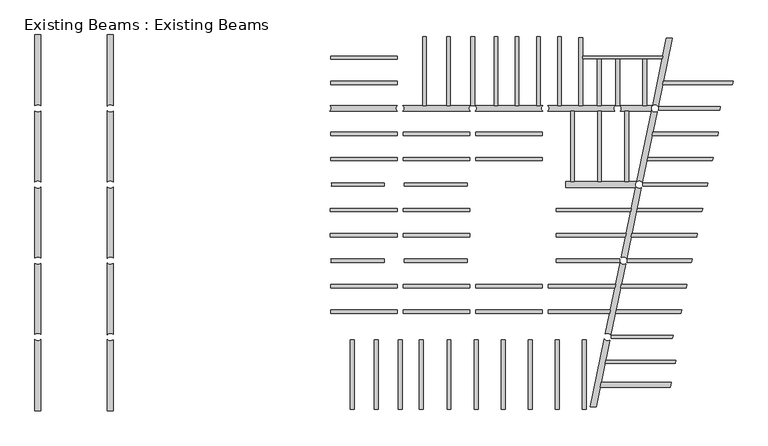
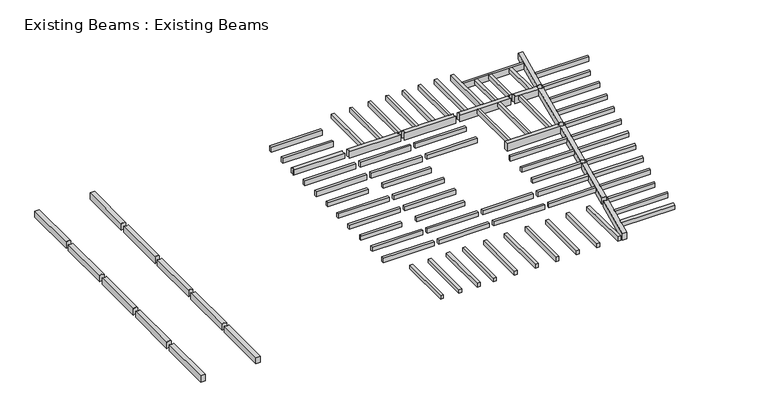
"""IFC4 building model written with IfcOpenShell, lengths in millimetres: beam geometry, Existing Beams : Existing Beams."""

from ifc_helpers import new_model, si_unit, point, frame, frame_2d, origin, place, context, project, spatial, polyline, circle_curve, trimmed, segment, composite_curve, outline, extrude, source, transform, mapped, element, save


def existing_beams_existing_beams_62673a28(model_context):
    return source(origin(), model_context, "Body", "SweptSolid", [
        extrude(outline(composite_curve([segment(polyline([(-31372.0509089, 117135.7591334), (-31372.0509089, 111526.8203862)]), True, "CONTINUOUS"), segment(trimmed(circle_curve(frame_2d((-31600.6509089, 111325.2141363)), 304.8), [point((-31372.0509089, 111526.8203862))], [point((-31829.2509089, 111526.8203862))], True, "CARTESIAN"), True, "CONTINUOUS"), segment(polyline([(-31829.2509089, 111526.8203862), (-31829.2509089, 117135.7591334), (-31372.0509089, 117135.7591334)]), True, "CONTINUOUS")], self_intersect=False)), frame((0.0, 0.0, 2984.5), z_axis=(0.0, 0.0, 1.0), x_axis=(1.0, 0.0, 0.0)), (0.0, 0.0, 1.0), 673.1),
        extrude(outline(composite_curve([segment(trimmed(circle_curve(frame_2d((-31600.6509089, 93262.0914396)), 304.8), [point((-31829.2509089, 93060.4851897))], [point((-31372.0509089, 93060.4851897))], True, "CARTESIAN"), True, "CONTINUOUS"), segment(polyline([(-31372.0509089, 93060.4851897), (-31372.0509089, 87424.7590237), (-31829.2509089, 87424.7590237), (-31829.2509089, 93060.4851897)]), True, "CONTINUOUS")], self_intersect=False)), frame((0.0, 0.0, 2984.5), z_axis=(0.0, 0.0, 1.0), x_axis=(1.0, 0.0, 0.0)), (0.0, 0.0, 1.0), 673.1),
        extrude(outline(composite_curve([segment(polyline([(-31829.2509089, 105504.922696), (-31829.2509089, 111123.6078864)]), True, "CONTINUOUS"), segment(trimmed(circle_curve(frame_2d((-31600.6509089, 111325.2141363)), 304.8), [point((-31829.2509089, 111123.6078864))], [point((-31372.0509089, 111123.6078864))], True, "CARTESIAN"), True, "CONTINUOUS"), segment(polyline([(-31372.0509089, 111123.6078864), (-31372.0509089, 105504.922696)]), True, "CONTINUOUS"), segment(trimmed(circle_curve(frame_2d((-31600.6509089, 105303.3164461)), 304.8), [point((-31372.0509089, 105504.922696))], [point((-31829.2509089, 105504.922696))], True, "CARTESIAN"), True, "CONTINUOUS")], self_intersect=False)), frame((0.0, 0.0, 2984.5), z_axis=(0.0, 0.0, 1.0), x_axis=(1.0, 0.0, 0.0)), (0.0, 0.0, 1.0), 673.1),
        extrude(outline(composite_curve([segment(polyline([(-31829.2509089, 99493.8653833), (-31829.2509089, 105101.7101962)]), True, "CONTINUOUS"), segment(trimmed(circle_curve(frame_2d((-31600.6509089, 105303.3164461)), 304.8), [point((-31829.2509089, 105101.7101962))], [point((-31372.0509089, 105101.7101962))], True, "CARTESIAN"), True, "CONTINUOUS"), segment(polyline([(-31372.0509089, 105101.7101962), (-31372.0509089, 99493.8653833)]), True, "CONTINUOUS"), segment(trimmed(circle_curve(frame_2d((-31600.6509089, 99292.2591334)), 304.8), [point((-31372.0509089, 99493.8653833))], [point((-31829.2509089, 99493.8653833))], True, "CARTESIAN"), True, "CONTINUOUS")], self_intersect=False)), frame((0.0, 0.0, 2984.5), z_axis=(0.0, 0.0, 1.0), x_axis=(1.0, 0.0, 0.0)), (0.0, 0.0, 1.0), 673.1),
        extrude(outline(composite_curve([segment(polyline([(-31829.2509089, 93463.6976895), (-31829.2509089, 99090.6528835)]), True, "CONTINUOUS"), segment(trimmed(circle_curve(frame_2d((-31600.6509089, 99292.2591334)), 304.8), [point((-31829.2509089, 99090.6528835))], [point((-31372.0509089, 99090.6528835))], True, "CARTESIAN"), True, "CONTINUOUS"), segment(polyline([(-31372.0509089, 99090.6528835), (-31372.0509089, 93463.6976895)]), True, "CONTINUOUS"), segment(trimmed(circle_curve(frame_2d((-31600.6509089, 93262.0914396)), 304.8), [point((-31372.0509089, 93463.6976895))], [point((-31829.2509089, 93463.6976895))], True, "CARTESIAN"), True, "CONTINUOUS")], self_intersect=False)), frame((0.0, 0.0, 2984.5), z_axis=(0.0, 0.0, 1.0), x_axis=(1.0, 0.0, 0.0)), (0.0, 0.0, 1.0), 673.1),
        extrude(outline(composite_curve([segment(polyline([(-25657.0509089, 117135.7591334), (-25657.0509089, 111537.1913355)]), True, "CONTINUOUS"), segment(trimmed(circle_curve(frame_2d((-25876.0685042, 111325.2141363)), 304.8), [point((-25657.0509089, 111537.1913355))], [point((-26114.2509089, 111515.4039943))], True, "CARTESIAN"), True, "CONTINUOUS"), segment(polyline([(-26114.2509089, 111515.4039943), (-26114.2509089, 117135.7591334), (-25657.0509089, 117135.7591334)]), True, "CONTINUOUS")], self_intersect=False)), frame((0.0, 0.0, 2984.5), z_axis=(0.0, 0.0, 1.0), x_axis=(1.0, 0.0, 0.0)), (0.0, 0.0, 1.0), 673.1),
        extrude(outline(composite_curve([segment(trimmed(circle_curve(frame_2d((-25876.0685042, 93257.4589024)), 304.8), [point((-26114.2509089, 93067.2690445))], [point((-25657.0509089, 93045.4817033))], True, "CARTESIAN"), True, "CONTINUOUS"), segment(polyline([(-25657.0509089, 93045.4817033), (-25657.0509089, 87424.7590237), (-26114.2509089, 87424.7590237), (-26114.2509089, 93067.2690445)]), True, "CONTINUOUS")], self_intersect=False)), frame((0.0, 0.0, 2984.5), z_axis=(0.0, 0.0, 1.0), x_axis=(1.0, 0.0, 0.0)), (0.0, 0.0, 1.0), 673.1),
        extrude(outline(composite_curve([segment(polyline([(-26114.2509089, 105493.506304), (-26114.2509089, 111135.0242784)]), True, "CONTINUOUS"), segment(trimmed(circle_curve(frame_2d((-25876.0685042, 111325.2141363)), 304.8), [point((-26114.2509089, 111135.0242784))], [point((-25657.0509089, 111113.2369372))], True, "CARTESIAN"), True, "CONTINUOUS"), segment(polyline([(-25657.0509089, 111113.2369372), (-25657.0509089, 105515.2936453)]), True, "CONTINUOUS"), segment(trimmed(circle_curve(frame_2d((-25876.0685042, 105303.3164461)), 304.8), [point((-25657.0509089, 105515.2936453))], [point((-26114.2509089, 105493.506304))], True, "CARTESIAN"), True, "CONTINUOUS")], self_intersect=False)), frame((0.0, 0.0, 2984.5), z_axis=(0.0, 0.0, 1.0), x_axis=(1.0, 0.0, 0.0)), (0.0, 0.0, 1.0), 673.1),
        extrude(outline(composite_curve([segment(polyline([(-26114.2509089, 99482.4489914), (-26114.2509089, 105113.1265881)]), True, "CONTINUOUS"), segment(trimmed(circle_curve(frame_2d((-25876.0685042, 105303.3164461)), 304.8), [point((-26114.2509089, 105113.1265881))], [point((-25657.0509089, 105091.3392469))], True, "CARTESIAN"), True, "CONTINUOUS"), segment(polyline([(-25657.0509089, 105091.3392469), (-25657.0509089, 99504.2363326)]), True, "CONTINUOUS"), segment(trimmed(circle_curve(frame_2d((-25876.0685042, 99292.2591334)), 304.8), [point((-25657.0509089, 99504.2363326))], [point((-26114.2509089, 99482.4489914))], True, "CARTESIAN"), True, "CONTINUOUS")], self_intersect=False)), frame((0.0, 0.0, 2984.5), z_axis=(0.0, 0.0, 1.0), x_axis=(1.0, 0.0, 0.0)), (0.0, 0.0, 1.0), 673.1),
        extrude(outline(composite_curve([segment(polyline([(-26114.2509089, 93447.6487604), (-26114.2509089, 99102.0692755)]), True, "CONTINUOUS"), segment(trimmed(circle_curve(frame_2d((-25876.0685042, 99292.2591334)), 304.8), [point((-26114.2509089, 99102.0692755))], [point((-25657.0509089, 99080.2819343))], True, "CARTESIAN"), True, "CONTINUOUS"), segment(polyline([(-25657.0509089, 99080.2819343), (-25657.0509089, 93469.4361016)]), True, "CONTINUOUS"), segment(trimmed(circle_curve(frame_2d((-25876.0685042, 93257.4589024)), 304.8), [point((-25657.0509089, 93469.4361016))], [point((-26114.2509089, 93447.6487604))], True, "CARTESIAN"), True, "CONTINUOUS")], self_intersect=False)), frame((0.0, 0.0, 2984.5), z_axis=(0.0, 0.0, 1.0), x_axis=(1.0, 0.0, 0.0)), (0.0, 0.0, 1.0), 673.1),
        extrude(outline(polyline([(12790.605652, 89286.9914396), (12869.2773292, 89667.9914396), (18380.5452977, 89667.9914396), (18301.8652862, 89286.9914396), (12790.605652, 89286.9914396)])), frame((0.0, 0.0, 3200.4), z_axis=(0.0, 0.0, 1.0), x_axis=(1.0, 0.0, 0.0)), (0.0, 0.0, 1.0), 457.2),
        extrude(outline(polyline([(17729.3332816, 113204.8141363), (17781.7810664, 113458.8141363), (23280.1609264, 113458.8141363), (23227.7131416, 113204.8141363), (17729.3332816, 113204.8141363)])), frame((0.0, 0.0, 3200.4), z_axis=(0.0, 0.0, 1.0), x_axis=(1.0, 0.0, 0.0)), (0.0, 0.0, 1.0), 457.2),
        extrude(outline(polyline([(16900.7191948, 109191.9091334), (16953.1669796, 109445.9091334), (22114.3809434, 109445.9091334), (22061.9331586, 109191.9091334), (16900.7191948, 109191.9091334)])), frame((0.0, 0.0, 3200.4), z_axis=(0.0, 0.0, 1.0), x_axis=(1.0, 0.0, 0.0)), (0.0, 0.0, 1.0), 457.2),
        extrude(outline(polyline([(16486.3816948, 107185.3091334), (16538.8294796, 107439.3091334), (21700.0434434, 107439.3091334), (21647.5956586, 107185.3091334), (16486.3816948, 107185.3091334)])), frame((0.0, 0.0, 3200.4), z_axis=(0.0, 0.0, 1.0), x_axis=(1.0, 0.0, 0.0)), (0.0, 0.0, 1.0), 457.2),
        extrude(outline(polyline([(15659.0178894, 103178.4591334), (15711.4656742, 103432.4591334), (20872.6796381, 103432.4591334), (20820.2318532, 103178.4591334), (15659.0178894, 103178.4591334)])), frame((0.0, 0.0, 3200.4), z_axis=(0.0, 0.0, 1.0), x_axis=(1.0, 0.0, 0.0)), (0.0, 0.0, 1.0), 457.2),
        extrude(outline(polyline([(15244.6803894, 101171.8591334), (15297.1281742, 101425.8591334), (20458.3421381, 101425.8591334), (20405.8943532, 101171.8591334), (15244.6803894, 101171.8591334)])), frame((0.0, 0.0, 3200.4), z_axis=(0.0, 0.0, 1.0), x_axis=(1.0, 0.0, 0.0)), (0.0, 0.0, 1.0), 457.2),
        extrude(outline(polyline([(14413.8645918, 97148.2914396), (14466.3123766, 97402.2914396), (19627.5263405, 97402.2914396), (19575.0785557, 97148.2914396), (14413.8645918, 97148.2914396)])), frame((0.0, 0.0, 3200.4), z_axis=(0.0, 0.0, 1.0), x_axis=(1.0, 0.0, 0.0)), (0.0, 0.0, 1.0), 457.2),
        extrude(outline(composite_curve([segment(trimmed(circle_curve(frame_2d((17107.7971305, 111318.8641363)), 304.8), [point((17387.7017884, 111198.2141363))], [point((17381.8789021, 111452.2141363))], True, "CARTESIAN"), True, "CONTINUOUS"), segment(polyline([(17381.8789021, 111452.2141363), (22286.303546, 111452.2141363), (22233.850205, 111198.2141363), (17387.7017884, 111198.2141363)]), True, "CONTINUOUS")], self_intersect=False)), frame((0.0, 0.0, 3200.4), z_axis=(0.0, 0.0, 1.0), x_axis=(1.0, 0.0, 0.0)), (0.0, 0.0, 1.0), 457.2),
        extrude(outline(composite_curve([segment(trimmed(circle_curve(frame_2d((15864.8455437, 105305.7091334)), 304.8), [point((16141.9268314, 105178.7091334))], [point((16141.9268314, 105432.7091334))], True, "CARTESIAN"), True, "CONTINUOUS"), segment(polyline([(16141.9268314, 105432.7091334), (21285.7059434, 105432.7091334), (21233.2581586, 105178.7091334), (16141.9268314, 105178.7091334)]), True, "CONTINUOUS")], self_intersect=False)), frame((0.0, 0.0, 3200.4), z_axis=(0.0, 0.0, 1.0), x_axis=(1.0, 0.0, 0.0)), (0.0, 0.0, 1.0), 457.2),
        extrude(outline(composite_curve([segment(trimmed(circle_curve(frame_2d((14623.1442383, 99292.2591334)), 304.8), [point((14900.225526, 99165.2591334))], [point((14900.225526, 99419.2591334))], True, "CARTESIAN"), True, "CONTINUOUS"), segment(polyline([(14900.225526, 99419.2591334), (20044.0046381, 99419.2591334), (19991.5568532, 99165.2591334), (14900.225526, 99165.2591334)]), True, "CONTINUOUS")], self_intersect=False)), frame((0.0, 0.0, 3200.4), z_axis=(0.0, 0.0, 1.0), x_axis=(1.0, 0.0, 0.0)), (0.0, 0.0, 1.0), 457.2),
        extrude(outline(polyline([(13178.7192596, 91166.5914396), (13231.1670444, 91420.5914396), (18755.4413259, 91420.5914396), (18702.9879849, 91166.5914396), (13178.7192596, 91166.5914396)])), frame((0.0, 0.0, 3200.4), z_axis=(0.0, 0.0, 1.0), x_axis=(1.0, 0.0, 0.0)), (0.0, 0.0, 1.0), 457.2),
        extrude(outline(polyline([(13999.5270918, 95141.6914396), (14051.9748766, 95395.6914396), (19213.1888405, 95395.6914396), (19160.7410557, 95141.6914396), (13999.5270918, 95141.6914396)])), frame((0.0, 0.0, 3200.4), z_axis=(0.0, 0.0, 1.0), x_axis=(1.0, 0.0, 0.0)), (0.0, 0.0, 1.0), 457.2),
        extrude(outline(composite_curve([segment(trimmed(circle_curve(frame_2d((13377.9909408, 93257.4589024)), 304.8), [point((13657.1490394, 93135.0914396))], [point((13652.9016811, 93389.0914396))], True, "CARTESIAN"), True, "CONTINUOUS"), segment(polyline([(13652.9016811, 93389.0914396), (18539.4840694, 93389.0914396), (18487.0362846, 93135.0914396), (13657.1490394, 93135.0914396)]), True, "CONTINUOUS")], self_intersect=False)), frame((0.0, 0.0, 3200.4), z_axis=(0.0, 0.0, 1.0), x_axis=(1.0, 0.0, 0.0)), (0.0, 0.0, 1.0), 457.2),
        extrude(outline(polyline([(13947.0195049, 97148.2914396), (8674.9971305, 97148.2914396), (8674.9971305, 97402.2914396), (13999.4672897, 97402.2914396), (13947.0195049, 97148.2914396)])), frame((0.0, 0.0, 3200.4), z_axis=(0.0, 0.0, 1.0), x_axis=(1.0, 0.0, 0.0)), (0.0, 0.0, 1.0), 457.2),
        extrude(outline(polyline([(13532.6820049, 95141.6914396), (8674.9971305, 95141.6914396), (8674.9971305, 95395.6914396), (13585.1297897, 95395.6914396), (13532.6820049, 95141.6914396)])), frame((0.0, 0.0, 3200.4), z_axis=(0.0, 0.0, 1.0), x_axis=(1.0, 0.0, 0.0)), (0.0, 0.0, 1.0), 457.2),
        extrude(outline(composite_curve([segment(polyline([(14346.0629506, 99165.2591334), (9335.184457, 99165.2591334), (9335.184457, 99419.2591334), (14346.0629506, 99419.2591334)]), True, "CONTINUOUS"), segment(trimmed(circle_curve(frame_2d((14623.1442383, 99292.2591334)), 304.8), [point((14346.0629506, 99419.2591334))], [point((14346.0629506, 99165.2591334))], True, "CARTESIAN"), True, "CONTINUOUS")], self_intersect=False)), frame((0.0, 0.0, 3200.4), z_axis=(0.0, 0.0, 1.0), x_axis=(1.0, 0.0, 0.0)), (0.0, 0.0, 1.0), 457.2),
        extrude(outline(polyline([(9335.184457, 103178.4591334), (9335.184457, 103432.4591334), (15244.6205872, 103432.4591334), (15192.1728024, 103178.4591334), (9335.184457, 103178.4591334)])), frame((0.0, 0.0, 3200.4), z_axis=(0.0, 0.0, 1.0), x_axis=(1.0, 0.0, 0.0)), (0.0, 0.0, 1.0), 457.2),
        extrude(outline(polyline([(9335.184457, 101171.8591334), (9335.184457, 101425.8591334), (14830.2830872, 101425.8591334), (14777.8353024, 101171.8591334), (9335.184457, 101171.8591334)])), frame((0.0, 0.0, 3200.4), z_axis=(0.0, 0.0, 1.0), x_axis=(1.0, 0.0, 0.0)), (0.0, 0.0, 1.0), 457.2),
        extrude(outline(polyline([(15024.9971305, 105534.3091334), (14745.5971305, 105534.3091334), (14745.5971305, 111096.6141363), (15024.9971305, 111096.6141363), (15024.9971305, 105534.3091334)])), frame((0.0, 0.0, 3200.4), z_axis=(0.0, 0.0, 1.0), x_axis=(1.0, 0.0, 0.0)), (0.0, 0.0, 1.0), 457.2),
        extrude(outline(polyline([(12865.9971305, 105534.3091334), (12586.5971305, 105534.3091334), (12586.5971305, 111096.6141363), (12865.9971305, 111096.6141363), (12865.9971305, 105534.3091334)])), frame((0.0, 0.0, 3200.4), z_axis=(0.0, 0.0, 1.0), x_axis=(1.0, 0.0, 0.0)), (0.0, 0.0, 1.0), 457.2),
        extrude(outline(polyline([(10732.3971305, 105534.3091334), (10452.9971305, 105534.3091334), (10452.9971305, 111096.6141363), (10732.3971305, 111096.6141363), (10732.3971305, 105534.3091334)])), frame((0.0, 0.0, 3200.4), z_axis=(0.0, 0.0, 1.0), x_axis=(1.0, 0.0, 0.0)), (0.0, 0.0, 1.0), 457.2),
        extrude(outline(composite_curve([segment(polyline([(15584.2199939, 105077.1091334), (10084.484457, 105077.1091334), (10084.484457, 105534.3091334), (15663.2392938, 105534.3091334)]), True, "CONTINUOUS"), segment(trimmed(circle_curve(frame_2d((15864.8455437, 105305.7091334)), 304.8), [point((15663.2392938, 105534.3091334))], [point((15600.1993781, 105154.4958832))], True, "CARTESIAN"), True, "CONTINUOUS"), segment(polyline([(15600.1993781, 105154.4958832), (15584.2199939, 105077.1091334)]), True, "CONTINUOUS")], self_intersect=False)), frame((0.0, 0.0, 2882.9), z_axis=(0.0, 0.0, 1.0), x_axis=(1.0, 0.0, 0.0)), (0.0, 0.0, 1.0), 774.7),
        extrude(outline(polyline([(11405.4971305, 115262.2141363), (11405.4971305, 115465.4141363), (17729.2734794, 115465.4141363), (17687.3152516, 115262.2141363), (11405.4971305, 115262.2141363)])), frame((0.0, 0.0, 3009.9), z_axis=(0.0, 0.0, 1.0), x_axis=(1.0, 0.0, 0.0)), (0.0, 0.0, 1.0), 647.7),
        extrude(outline(polyline([(16460.0971305, 111553.8141363), (16155.2971305, 111553.8141363), (16155.2971305, 115276.0436135), (16460.0971305, 115276.0436135), (16460.0971305, 111553.8141363)])), frame((0.0, 0.0, 3200.4), z_axis=(0.0, 0.0, 1.0), x_axis=(1.0, 0.0, 0.0)), (0.0, 0.0, 1.0), 457.2),
        extrude(outline(polyline([(14326.4971305, 111553.8141363), (14021.6971305, 111553.8141363), (14021.6971305, 115283.2427844), (14326.4971305, 115283.2427844), (14326.4971305, 111553.8141363)])), frame((0.0, 0.0, 3200.4), z_axis=(0.0, 0.0, 1.0), x_axis=(1.0, 0.0, 0.0)), (0.0, 0.0, 1.0), 457.2),
        extrude(outline(polyline([(12878.6971305, 111553.8141363), (12573.8971305, 111553.8141363), (12573.8971305, 115261.6452716), (12878.6971305, 115261.6452716), (12878.6971305, 111553.8141363)])), frame((0.0, 0.0, 3200.4), z_axis=(0.0, 0.0, 1.0), x_axis=(1.0, 0.0, 0.0)), (0.0, 0.0, 1.0), 457.2),
        extrude(outline(polyline([(11405.4971305, 111553.8141363), (11100.6971305, 111553.8141363), (11100.6971305, 116923.9158066), (11405.4971305, 116923.9158066), (11405.4971305, 111553.8141363)])), frame((0.0, 0.0, 3009.9), z_axis=(0.0, 0.0, 1.0), x_axis=(1.0, 0.0, 0.0)), (0.0, 0.0, 1.0), 647.7),
        extrude(outline(polyline([(9729.0971305, 111553.8141363), (9449.6971305, 111553.8141363), (9449.6971305, 117006.9515335), (9729.0971305, 117006.9515335), (9729.0971305, 111553.8141363)])), frame((0.0, 0.0, 3187.7), z_axis=(0.0, 0.0, 1.0), x_axis=(1.0, 0.0, 0.0)), (0.0, 0.0, 1.0), 469.9),
        extrude(outline(composite_curve([segment(polyline([(16923.1351928, 111561.3574533), (18017.0221489, 116858.9555855), (18483.8672359, 116858.9555855), (17371.4782859, 111471.7539276)]), True, "CONTINUOUS"), segment(trimmed(circle_curve(frame_2d((17107.7971305, 111318.8641363)), 304.8), [point((17371.4782859, 111471.7539276))], [point((16923.1351928, 111561.3574533))], True, "CARTESIAN"), True, "CONTINUOUS")], self_intersect=False)), frame((0.0, 0.0, 2984.5), z_axis=(0.0, 0.0, 1.0), x_axis=(1.0, 0.0, 0.0)), (0.0, 0.0, 1.0), 673.1),
        extrude(outline(composite_curve([segment(polyline([(13559.9677094, 93012.9440855), (12468.9790763, 87729.382276), (12002.1339893, 87729.382276), (13112.6431486, 93107.4802734)]), True, "CONTINUOUS"), segment(trimmed(circle_curve(frame_2d((13377.9909408, 93257.4589024)), 304.8), [point((13112.6431486, 93107.4802734))], [point((13559.9677094, 93012.9440855))], True, "CARTESIAN"), True, "CONTINUOUS")], self_intersect=False)), frame((0.0, 0.0, 2984.5), z_axis=(0.0, 0.0, 1.0), x_axis=(1.0, 0.0, 0.0)), (0.0, 0.0, 1.0), 673.1),
        extrude(outline(composite_curve([segment(polyline([(15681.7375273, 105549.3779545), (16842.1897356, 111169.345737)]), True, "CONTINUOUS"), segment(trimmed(circle_curve(frame_2d((17107.7971305, 111318.8641363)), 304.8), [point((16842.1897356, 111169.345737))], [point((17289.3550063, 111074.0381211))], True, "CARTESIAN"), True, "CONTINUOUS"), segment(polyline([(17289.3550063, 111074.0381211), (16129.4917092, 105456.9223837)]), True, "CONTINUOUS"), segment(trimmed(circle_curve(frame_2d((15864.8455437, 105305.7091334)), 304.8), [point((16129.4917092, 105456.9223837))], [point((15681.7375273, 105549.3779545))], True, "CARTESIAN"), True, "CONTINUOUS")], self_intersect=False)), frame((0.0, 0.0, 2984.5), z_axis=(0.0, 0.0, 1.0), x_axis=(1.0, 0.0, 0.0)), (0.0, 0.0, 1.0), 673.1),
        extrude(outline(composite_curve([segment(polyline([(14440.0362219, 99535.9279545), (15600.1993781, 105154.4958832)]), True, "CONTINUOUS"), segment(trimmed(circle_curve(frame_2d((15864.8455437, 105305.7091334)), 304.8), [point((15600.1993781, 105154.4958832))], [point((16047.95356, 105062.0403124))], True, "CARTESIAN"), True, "CONTINUOUS"), segment(polyline([(16047.95356, 105062.0403124), (14887.7904039, 99443.4723837)]), True, "CONTINUOUS"), segment(trimmed(circle_curve(frame_2d((14623.1442383, 99292.2591334)), 304.8), [point((14887.7904039, 99443.4723837))], [point((14440.0362219, 99535.9279545))], True, "CARTESIAN"), True, "CONTINUOUS")], self_intersect=False)), frame((0.0, 0.0, 2984.5), z_axis=(0.0, 0.0, 1.0), x_axis=(1.0, 0.0, 0.0)), (0.0, 0.0, 1.0), 673.1),
        extrude(outline(composite_curve([segment(polyline([(13193.7496646, 93500.2719831), (14358.4980727, 99141.0458832)]), True, "CONTINUOUS"), segment(trimmed(circle_curve(frame_2d((14623.1442383, 99292.2591334)), 304.8), [point((14358.4980727, 99141.0458832))], [point((14806.2522546, 99048.5903124))], True, "CARTESIAN"), True, "CONTINUOUS"), segment(polyline([(14806.2522546, 99048.5903124), (13641.9334676, 93409.8970294)]), True, "CONTINUOUS"), segment(trimmed(circle_curve(frame_2d((13377.9909408, 93257.4589024)), 304.8), [point((13641.9334676, 93409.8970294))], [point((13193.7496646, 93500.2719831))], True, "CARTESIAN"), True, "CONTINUOUS")], self_intersect=False)), frame((0.0, 0.0, 2984.5), z_axis=(0.0, 0.0, 1.0), x_axis=(1.0, 0.0, 0.0)), (0.0, 0.0, 1.0), 673.1),
        extrude(outline(polyline([(11697.5971305, 87542.4589024), (11392.7971305, 87542.4589024), (11392.7971305, 93033.4914396), (11697.5971305, 93033.4914396), (11697.5971305, 87542.4589024)])), frame((0.0, 0.0, 3200.4), z_axis=(0.0, 0.0, 1.0), x_axis=(1.0, 0.0, 0.0)), (0.0, 0.0, 1.0), 457.2),
        extrude(outline(polyline([(9563.9971305, 87542.4589024), (9259.1971305, 87542.4589024), (9259.1971305, 93033.4914396), (9563.9971305, 93033.4914396), (9563.9971305, 87542.4589024)])), frame((0.0, 0.0, 3200.4), z_axis=(0.0, 0.0, 1.0), x_axis=(1.0, 0.0, 0.0)), (0.0, 0.0, 1.0), 457.2),
        extrude(outline(polyline([(7430.3971305, 87542.4589024), (7125.5971305, 87542.4589024), (7125.5971305, 93033.4914396), (7430.3971305, 93033.4914396), (7430.3971305, 87542.4589024)])), frame((0.0, 0.0, 3200.4), z_axis=(0.0, 0.0, 1.0), x_axis=(1.0, 0.0, 0.0)), (0.0, 0.0, 1.0), 457.2),
        extrude(outline(polyline([(5296.7971305, 87542.4589024), (4991.9971305, 87542.4589024), (4991.9971305, 93033.4914396), (5296.7971305, 93033.4914396), (5296.7971305, 87542.4589024)])), frame((0.0, 0.0, 3200.4), z_axis=(0.0, 0.0, 1.0), x_axis=(1.0, 0.0, 0.0)), (0.0, 0.0, 1.0), 457.2),
        extrude(outline(polyline([(2959.9971305, 97148.2914396), (2959.9971305, 97402.2914396), (8217.7971305, 97402.2914396), (8217.7971305, 97148.2914396), (2959.9971305, 97148.2914396)])), frame((0.0, 0.0, 3200.4), z_axis=(0.0, 0.0, 1.0), x_axis=(1.0, 0.0, 0.0)), (0.0, 0.0, 1.0), 457.2),
        extrude(outline(polyline([(2959.9971305, 95141.6914396), (2959.9971305, 95395.6914396), (8217.7971305, 95395.6914396), (8217.7971305, 95141.6914396), (2959.9971305, 95141.6914396)])), frame((0.0, 0.0, 3200.4), z_axis=(0.0, 0.0, 1.0), x_axis=(1.0, 0.0, 0.0)), (0.0, 0.0, 1.0), 457.2),
        extrude(outline(polyline([(2283.7221305, 105178.7091334), (-2678.8028695, 105178.7091334), (-2678.8028695, 105432.7091334), (2283.7221305, 105432.7091334), (2283.7221305, 105178.7091334)])), frame((0.0, 0.0, 3200.4), z_axis=(0.0, 0.0, 1.0), x_axis=(1.0, 0.0, 0.0)), (0.0, 0.0, 1.0), 457.2),
        extrude(outline(polyline([(2959.9971305, 109191.9091334), (2959.9971305, 109445.9091334), (8217.7971305, 109445.9091334), (8217.7971305, 109191.9091334), (2959.9971305, 109191.9091334)])), frame((0.0, 0.0, 3187.7), z_axis=(0.0, 0.0, 1.0), x_axis=(1.0, 0.0, 0.0)), (0.0, 0.0, 1.0), 469.9),
        extrude(outline(polyline([(2959.9971305, 107185.3091334), (2959.9971305, 107439.3091334), (8217.7971305, 107439.3091334), (8217.7971305, 107185.3091334), (2959.9971305, 107185.3091334)])), frame((0.0, 0.0, 3187.7), z_axis=(0.0, 0.0, 1.0), x_axis=(1.0, 0.0, 0.0)), (0.0, 0.0, 1.0), 469.9),
        extrude(outline(polyline([(8052.6971305, 111553.8141363), (7773.2971305, 111553.8141363), (7773.2971305, 117006.9515335), (8052.6971305, 117006.9515335), (8052.6971305, 111553.8141363)])), frame((0.0, 0.0, 3187.7), z_axis=(0.0, 0.0, 1.0), x_axis=(1.0, 0.0, 0.0)), (0.0, 0.0, 1.0), 469.9),
        extrude(outline(polyline([(6376.2971305, 111553.8141363), (6096.8971305, 111553.8141363), (6096.8971305, 117006.9515335), (6376.2971305, 117006.9515335), (6376.2971305, 111553.8141363)])), frame((0.0, 0.0, 3187.7), z_axis=(0.0, 0.0, 1.0), x_axis=(1.0, 0.0, 0.0)), (0.0, 0.0, 1.0), 469.9),
        extrude(outline(polyline([(4699.8971305, 111553.8141363), (4420.4971305, 111553.8141363), (4420.4971305, 117006.9515335), (4699.8971305, 117006.9515335), (4699.8971305, 111553.8141363)])), frame((0.0, 0.0, 3187.7), z_axis=(0.0, 0.0, 1.0), x_axis=(1.0, 0.0, 0.0)), (0.0, 0.0, 1.0), 469.9),
        extrude(outline(polyline([(3163.1971305, 87542.4589024), (2858.3971305, 87542.4589024), (2858.3971305, 93033.4914396), (3163.1971305, 93033.4914396), (3163.1971305, 87542.4589024)])), frame((0.0, 0.0, 3200.4), z_axis=(0.0, 0.0, 1.0), x_axis=(1.0, 0.0, 0.0)), (0.0, 0.0, 1.0), 457.2),
        extrude(outline(polyline([(1004.1971305, 87542.4589024), (699.3971305, 87542.4589024), (699.3971305, 93033.4914396), (1004.1971305, 93033.4914396), (1004.1971305, 87542.4589024)])), frame((0.0, 0.0, 3200.4), z_axis=(0.0, 0.0, 1.0), x_axis=(1.0, 0.0, 0.0)), (0.0, 0.0, 1.0), 457.2),
        extrude(outline(polyline([(-1180.2028695, 87542.4589024), (-1485.0028695, 87542.4589024), (-1485.0028695, 93033.4914396), (-1180.2028695, 93033.4914396), (-1180.2028695, 87542.4589024)])), frame((0.0, 0.0, 3251.2), z_axis=(0.0, 0.0, 1.0), x_axis=(1.0, 0.0, 0.0)), (0.0, 0.0, 1.0), 406.4),
        extrude(outline(polyline([(2502.7971305, 97148.2914396), (-2755.0028695, 97148.2914396), (-2755.0028695, 97402.2914396), (2502.7971305, 97402.2914396), (2502.7971305, 97148.2914396)])), frame((0.0, 0.0, 3200.4), z_axis=(0.0, 0.0, 1.0), x_axis=(1.0, 0.0, 0.0)), (0.0, 0.0, 1.0), 457.2),
        extrude(outline(polyline([(2502.7971305, 95141.6914396), (-2755.0028695, 95141.6914396), (-2755.0028695, 95395.6914396), (2502.7971305, 95395.6914396), (2502.7971305, 95141.6914396)])), frame((0.0, 0.0, 3200.4), z_axis=(0.0, 0.0, 1.0), x_axis=(1.0, 0.0, 0.0)), (0.0, 0.0, 1.0), 457.2),
        extrude(outline(polyline([(2283.7221305, 99165.2591334), (-2678.8028695, 99165.2591334), (-2678.8028695, 99419.2591334), (2283.7221305, 99419.2591334), (2283.7221305, 99165.2591334)])), frame((0.0, 0.0, 3200.4), z_axis=(0.0, 0.0, 1.0), x_axis=(1.0, 0.0, 0.0)), (0.0, 0.0, 1.0), 457.2),
        extrude(outline(polyline([(-2755.0028695, 103178.4591334), (-2755.0028695, 103432.4591334), (2502.7971305, 103432.4591334), (2502.7971305, 103178.4591334), (-2755.0028695, 103178.4591334)])), frame((0.0, 0.0, 3200.4), z_axis=(0.0, 0.0, 1.0), x_axis=(1.0, 0.0, 0.0)), (0.0, 0.0, 1.0), 457.2),
        extrude(outline(polyline([(-2755.0028695, 101171.8591334), (-2755.0028695, 101425.8591334), (2502.7971305, 101425.8591334), (2502.7971305, 101171.8591334), (-2755.0028695, 101171.8591334)])), frame((0.0, 0.0, 3200.4), z_axis=(0.0, 0.0, 1.0), x_axis=(1.0, 0.0, 0.0)), (0.0, 0.0, 1.0), 457.2),
        extrude(outline(polyline([(2502.7971305, 109191.9091334), (-2755.0028695, 109191.9091334), (-2755.0028695, 109445.9091334), (2502.7971305, 109445.9091334), (2502.7971305, 109191.9091334)])), frame((0.0, 0.0, 3098.8), z_axis=(0.0, 0.0, 1.0), x_axis=(1.0, 0.0, 0.0)), (0.0, 0.0, 1.0), 558.8),
        extrude(outline(polyline([(2502.7971305, 107185.3091334), (-2755.0028695, 107185.3091334), (-2755.0028695, 107439.3091334), (2502.7971305, 107439.3091334), (2502.7971305, 107185.3091334)])), frame((0.0, 0.0, 3098.8), z_axis=(0.0, 0.0, 1.0), x_axis=(1.0, 0.0, 0.0)), (0.0, 0.0, 1.0), 558.8),
        extrude(outline(polyline([(-938.9028695, 111553.8141363), (-1218.3028695, 111553.8141363), (-1218.3028695, 117006.9515335), (-938.9028695, 117006.9515335), (-938.9028695, 111553.8141363)])), frame((0.0, 0.0, 3187.7), z_axis=(0.0, 0.0, 1.0), x_axis=(1.0, 0.0, 0.0)), (0.0, 0.0, 1.0), 469.9),
        extrude(outline(polyline([(966.0971305, 111553.8141363), (686.6971305, 111553.8141363), (686.6971305, 117006.9515335), (966.0971305, 117006.9515335), (966.0971305, 111553.8141363)])), frame((0.0, 0.0, 3187.7), z_axis=(0.0, 0.0, 1.0), x_axis=(1.0, 0.0, 0.0)), (0.0, 0.0, 1.0), 469.9),
        extrude(outline(polyline([(2871.0971305, 111553.8141363), (2591.6971305, 111553.8141363), (2591.6971305, 117006.9515335), (2871.0971305, 117006.9515335), (2871.0971305, 111553.8141363)])), frame((0.0, 0.0, 3187.7), z_axis=(0.0, 0.0, 1.0), x_axis=(1.0, 0.0, 0.0)), (0.0, 0.0, 1.0), 469.9),
        extrude(outline(polyline([(-6628.5028695, 87542.4589024), (-6933.3028695, 87542.4589024), (-6933.3028695, 93033.4914396), (-6628.5028695, 93033.4914396), (-6628.5028695, 87542.4589024)])), frame((0.0, 0.0, 3251.2), z_axis=(0.0, 0.0, 1.0), x_axis=(1.0, 0.0, 0.0)), (0.0, 0.0, 1.0), 406.4),
        extrude(outline(polyline([(-4736.2028695, 87542.4589024), (-5041.0028695, 87542.4589024), (-5041.0028695, 93033.4914396), (-4736.2028695, 93033.4914396), (-4736.2028695, 87542.4589024)])), frame((0.0, 0.0, 3251.2), z_axis=(0.0, 0.0, 1.0), x_axis=(1.0, 0.0, 0.0)), (0.0, 0.0, 1.0), 406.4),
        extrude(outline(polyline([(-2818.5028695, 87542.4589024), (-3148.7028695, 87542.4589024), (-3148.7028695, 93033.4914396), (-2818.5028695, 93033.4914396), (-2818.5028695, 87542.4589024)])), frame((0.0, 0.0, 3251.2), z_axis=(0.0, 0.0, 1.0), x_axis=(1.0, 0.0, 0.0)), (0.0, 0.0, 1.0), 406.4),
        extrude(outline(polyline([(-8470.0028695, 97148.2914396), (-8470.0028695, 97402.2914396), (-3212.2028695, 97402.2914396), (-3212.2028695, 97148.2914396), (-8470.0028695, 97148.2914396)])), frame((0.0, 0.0, 3200.4), z_axis=(0.0, 0.0, 1.0), x_axis=(1.0, 0.0, 0.0)), (0.0, 0.0, 1.0), 457.2),
        extrude(outline(polyline([(-8470.0028695, 95141.6914396), (-8470.0028695, 95395.6914396), (-3212.2028695, 95395.6914396), (-3212.2028695, 95141.6914396), (-8470.0028695, 95141.6914396)])), frame((0.0, 0.0, 3200.4), z_axis=(0.0, 0.0, 1.0), x_axis=(1.0, 0.0, 0.0)), (0.0, 0.0, 1.0), 457.2),
        extrude(outline(composite_curve([segment(trimmed(circle_curve(frame_2d((-8739.7287286, 99294.9655058)), 304.8), [point((-8463.9039709, 99165.2591334))], [point((-8461.4229002, 99419.2591334))], True, "CARTESIAN"), True, "CONTINUOUS"), segment(polyline([(-8461.4229002, 99419.2591334), (-4240.9028695, 99419.2591334), (-4240.9028695, 99165.2591334), (-8463.9039709, 99165.2591334)]), True, "CONTINUOUS")], self_intersect=False)), frame((0.0, 0.0, 3200.4), z_axis=(0.0, 0.0, 1.0), x_axis=(1.0, 0.0, 0.0)), (0.0, 0.0, 1.0), 457.2),
        extrude(outline(polyline([(-3212.2028695, 103178.4591334), (-8512.0509089, 103178.4591334), (-8512.0509089, 103432.4591334), (-3212.2028695, 103432.4591334), (-3212.2028695, 103178.4591334)])), frame((0.0, 0.0, 3200.4), z_axis=(0.0, 0.0, 1.0), x_axis=(1.0, 0.0, 0.0)), (0.0, 0.0, 1.0), 457.2),
        extrude(outline(polyline([(-3212.2028695, 101171.8591334), (-8512.0509089, 101171.8591334), (-8512.0509089, 101425.8591334), (-3212.2028695, 101425.8591334), (-3212.2028695, 101171.8591334)])), frame((0.0, 0.0, 3200.4), z_axis=(0.0, 0.0, 1.0), x_axis=(1.0, 0.0, 0.0)), (0.0, 0.0, 1.0), 457.2),
        extrude(outline(polyline([(-8470.0028695, 109191.9091334), (-8470.0028695, 109445.9091334), (-3212.2028695, 109445.9091334), (-3212.2028695, 109191.9091334), (-8470.0028695, 109191.9091334)])), frame((0.0, 0.0, 3098.8), z_axis=(0.0, 0.0, 1.0), x_axis=(1.0, 0.0, 0.0)), (0.0, 0.0, 1.0), 558.8),
        extrude(outline(polyline([(-8470.0028695, 107185.3091334), (-8470.0028695, 107439.3091334), (-3212.2028695, 107439.3091334), (-3212.2028695, 107185.3091334), (-8470.0028695, 107185.3091334)])), frame((0.0, 0.0, 3098.8), z_axis=(0.0, 0.0, 1.0), x_axis=(1.0, 0.0, 0.0)), (0.0, 0.0, 1.0), 558.8),
        extrude(outline(composite_curve([segment(trimmed(circle_curve(frame_2d((-8698.6028695, 105303.3164461)), 304.8), [point((-8420.4373475, 105178.7091334))], [point((-8422.6308193, 105432.7091334))], True, "CARTESIAN"), True, "CONTINUOUS"), segment(polyline([(-8422.6308193, 105432.7091334), (-4240.9028695, 105432.7091334), (-4240.9028695, 105178.7091334), (-8420.4373475, 105178.7091334)]), True, "CONTINUOUS")], self_intersect=False)), frame((0.0, 0.0, 3200.4), z_axis=(0.0, 0.0, 1.0), x_axis=(1.0, 0.0, 0.0)), (0.0, 0.0, 1.0), 457.2),
        extrude(outline(polyline([(-8470.0028695, 115211.4141363), (-8470.0028695, 115465.4141363), (-3212.2028695, 115465.4141363), (-3212.2028695, 115211.4141363), (-8470.0028695, 115211.4141363)])), frame((0.0, 0.0, 3098.8), z_axis=(0.0, 0.0, 1.0), x_axis=(1.0, 0.0, 0.0)), (0.0, 0.0, 1.0), 558.8),
        extrude(outline(polyline([(-8470.0028695, 113204.8141363), (-8470.0028695, 113458.8141363), (-3212.2028695, 113458.8141363), (-3212.2028695, 113204.8141363), (-8470.0028695, 113204.8141363)])), frame((0.0, 0.0, 3098.8), z_axis=(0.0, 0.0, 1.0), x_axis=(1.0, 0.0, 0.0)), (0.0, 0.0, 1.0), 558.8),
        extrude(outline(composite_curve([segment(polyline([(13952.8114706, 111096.6141363), (8648.0033804, 111096.6141363)]), True, "CONTINUOUS"), segment(trimmed(circle_curve(frame_2d((8446.3971305, 111325.2141363)), 304.8), [point((8648.0033804, 111096.6141363))], [point((8648.0033804, 111553.8141363))], True, "CARTESIAN"), True, "CONTINUOUS"), segment(polyline([(8648.0033804, 111553.8141363), (13967.2282929, 111553.8141363)]), True, "CONTINUOUS"), segment(trimmed(circle_curve(frame_2d((14161.3971305, 111318.8641363)), 304.8), [point((13967.2282929, 111553.8141363))], [point((13952.8114706, 111096.6141363))], True, "CARTESIAN"), True, "CONTINUOUS")], self_intersect=False)), frame((0.0, 0.0, 2921.0), z_axis=(0.0, 0.0, 1.0), x_axis=(1.0, 0.0, 0.0)), (0.0, 0.0, 1.0), 736.6),
        extrude(outline(composite_curve([segment(polyline([(14355.5659681, 111553.8141363), (16913.6282929, 111553.8141363)]), True, "CONTINUOUS"), segment(trimmed(circle_curve(frame_2d((17107.7971305, 111318.8641363)), 304.8), [point((16913.6282929, 111553.8141363))], [point((16842.1897356, 111169.345737))], True, "CARTESIAN"), True, "CONTINUOUS"), segment(polyline([(16842.1897356, 111169.345737), (16827.1715807, 111096.6141363), (14369.9827904, 111096.6141363)]), True, "CONTINUOUS"), segment(trimmed(circle_curve(frame_2d((14161.3971305, 111318.8641363)), 304.8), [point((14369.9827904, 111096.6141363))], [point((14355.5659681, 111553.8141363))], True, "CARTESIAN"), True, "CONTINUOUS")], self_intersect=False)), frame((0.0, 0.0, 2921.0), z_axis=(0.0, 0.0, 1.0), x_axis=(1.0, 0.0, 0.0)), (0.0, 0.0, 1.0), 736.6),
        extrude(outline(composite_curve([segment(trimmed(circle_curve(frame_2d((2731.3971305, 111325.2141363)), 304.8), [point((2933.0033804, 111096.6141363))], [point((2933.0033804, 111553.8141363))], True, "CARTESIAN"), True, "CONTINUOUS"), segment(polyline([(2933.0033804, 111553.8141363), (8244.7908806, 111553.8141363)]), True, "CONTINUOUS"), segment(trimmed(circle_curve(frame_2d((8446.3971305, 111325.2141363)), 304.8), [point((8244.7908806, 111553.8141363))], [point((8244.7908806, 111096.6141363))], True, "CARTESIAN"), True, "CONTINUOUS"), segment(polyline([(8244.7908806, 111096.6141363), (2933.0033804, 111096.6141363)]), True, "CONTINUOUS")], self_intersect=False)), frame((0.0, 0.0, 2921.0), z_axis=(0.0, 0.0, 1.0), x_axis=(1.0, 0.0, 0.0)), (0.0, 0.0, 1.0), 736.6),
        extrude(outline(composite_curve([segment(polyline([(2529.7908806, 111096.6141363), (-2781.9966196, 111096.6141363)]), True, "CONTINUOUS"), segment(trimmed(circle_curve(frame_2d((-2983.6028695, 111325.2141363)), 304.8), [point((-2781.9966196, 111096.6141363))], [point((-2781.9966196, 111553.8141363))], True, "CARTESIAN"), True, "CONTINUOUS"), segment(polyline([(-2781.9966196, 111553.8141363), (2529.7908806, 111553.8141363)]), True, "CONTINUOUS"), segment(trimmed(circle_curve(frame_2d((2731.3971305, 111325.2141363)), 304.8), [point((2529.7908806, 111553.8141363))], [point((2529.7908806, 111096.6141363))], True, "CARTESIAN"), True, "CONTINUOUS")], self_intersect=False)), frame((0.0, 0.0, 2921.0), z_axis=(0.0, 0.0, 1.0), x_axis=(1.0, 0.0, 0.0)), (0.0, 0.0, 1.0), 736.6),
        extrude(outline(composite_curve([segment(trimmed(circle_curve(frame_2d((-8745.8206164, 111340.5221687)), 304.8), [point((-8563.0313614, 111096.6141363))], [point((-8528.0832137, 111553.8141363))], True, "CARTESIAN"), True, "CONTINUOUS"), segment(polyline([(-8528.0832137, 111553.8141363), (-3218.2689873, 111553.8141363)]), True, "CONTINUOUS"), segment(trimmed(circle_curve(frame_2d((-3025.2778766, 111317.8957793)), 304.8), [point((-3218.2689873, 111553.8141363))], [point((-3234.8905539, 111096.6141363))], True, "CARTESIAN"), True, "CONTINUOUS"), segment(polyline([(-3234.8905539, 111096.6141363), (-8563.0313614, 111096.6141363)]), True, "CONTINUOUS")], self_intersect=False)), frame((0.0, 0.0, 3098.8), z_axis=(0.0, 0.0, 1.0), x_axis=(1.0, 0.0, 0.0)), (0.0, 0.0, 1.0), 558.8),
    ])


if __name__ == "__main__":
    model = new_model("IFC4")
    model_context = context("Model", 3, world=origin())
    ifc_project = project(units=[si_unit("LENGTHUNIT", "METRE", prefix="MILLI")], contexts=[model_context])
    site = spatial("IfcSite", under=ifc_project)
    building = spatial("IfcBuilding", under=site)
    placement = place(None, origin())
    existing_beams_existing_beams_shape = existing_beams_existing_beams_62673a28(model_context)
    element("IfcBeam", 1, ObjectType="Existing Beams : Existing Beams", at=placement, inside=building, context=model_context, shape_type="MappedRepresentation", body=[
        mapped(existing_beams_existing_beams_shape, transform((0.0, 0.0, 0.0), x_axis=(1.0, 0.0, 0.0), y_axis=(0.0, 1.0, 0.0), z_axis=(0.0, 0.0, 1.0))),
    ])
    save(model, "model.ifc")
